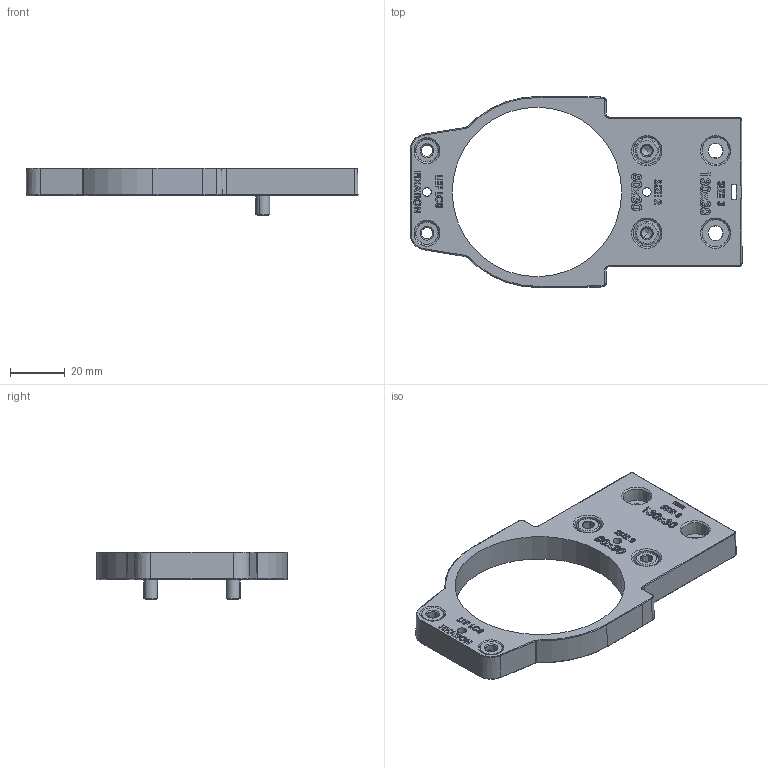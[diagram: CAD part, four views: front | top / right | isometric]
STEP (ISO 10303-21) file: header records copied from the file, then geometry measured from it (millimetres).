
FILE_DESCRIPTION (( 'STEP AP214' ), '1' );
FILE_NAME ('-SUPPORT LC8 GR2-3-.STEP', '2025-08-12T12:55:00', ( '' ), ( '' ), 'SwSTEP 2.0', 'SolidWorks 2024', '' );
FILE_SCHEMA (( 'AUTOMOTIVE_DESIGN' ));
Length unit declared in the file: millimetre
Products named in the file (1): -SUPPORT LC8 GR2-3-
Bounding box: 120.78 x 69.46 x 17.4 mm (x, y, z)
Volume: 26194.7 mm3; surface area: 19766.5 mm2
Topology: 5 solids, 5 shells, 2446 faces, 5314 edges, 2949 vertices
Faces by surface type: plane 1467, cone 540, bspline 273, cylinder 90, torus 76
Entity records: 94074 total; most frequent: CARTESIAN_POINT 27395, ORIENTED_EDGE 10620, DIRECTION 9637, EDGE_CURVE 5310, AXIS2_PLACEMENT_3D 3531, VERTEX_POINT 2949, VECTOR 2575, LINE 2575
